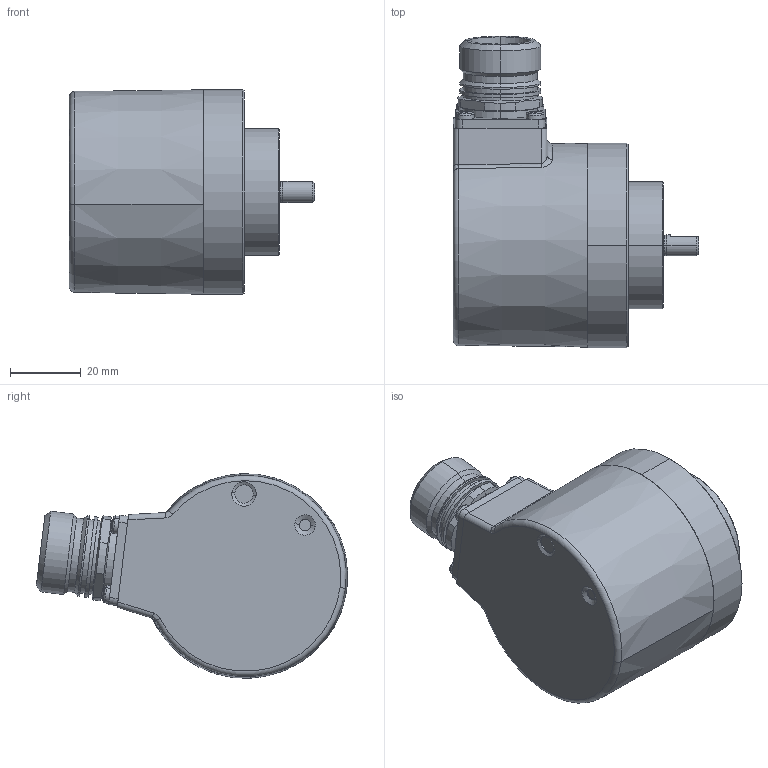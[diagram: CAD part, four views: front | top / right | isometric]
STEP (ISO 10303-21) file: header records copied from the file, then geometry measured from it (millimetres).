
FILE_DESCRIPTION (( 'STEP AP214' ), '1' );
FILE_NAME ('5863.1124.XXXX.STEP', '2008-06-06T06:00:15', ( 'admin' ), ( 'Fritz Kübler GmbH' ), 'SwSTEP 2.0', 'SolidWorks 2007', '' );
FILE_SCHEMA (( 'AUTOMOTIVE_DESIGN' ));
Length unit declared in the file: millimetre
Products named in the file (1): 5863.1124.XXXX
Bounding box: 69.5 x 88.28 x 58 mm (x, y, z)
Surface area: 23310.9 mm2 (no closed solid volume)
Topology: 0 solids, 32 shells, 331 faces, 868 edges, 550 vertices
Faces by surface type: cylinder 137, plane 87, cone 43, sphere 32, torus 26, bspline 6
Entity records: 14060 total; most frequent: CARTESIAN_POINT 2082, DIRECTION 1982, ORIENTED_EDGE 1518, EDGE_CURVE 844, AXIS2_PLACEMENT_3D 840, VERTEX_POINT 550, CIRCLE 514, EDGE_LOOP 380
